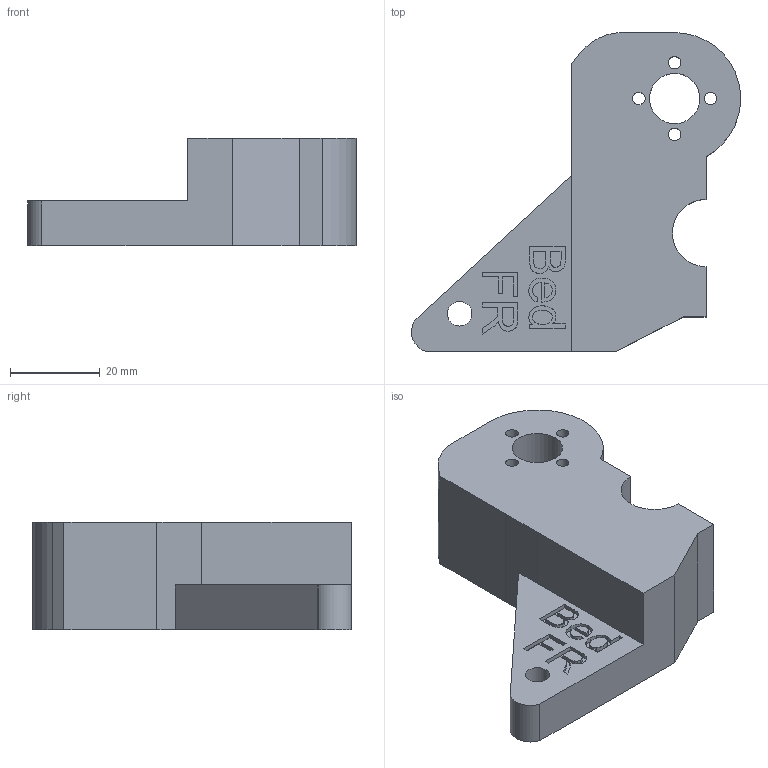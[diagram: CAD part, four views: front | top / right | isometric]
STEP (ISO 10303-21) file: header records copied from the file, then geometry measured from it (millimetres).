
FILE_DESCRIPTION(/* description */ (''),/* implementation_level */ '2;1');
FILE_NAME(/* name */ 'FR Z to Bed v3.step',/* time_stamp */ '2023-03-23T06:33:33-06:00',/* author */ (''),/* organization */ (''),/* preprocessor_version */ 'ST-DEVELOPER v19.2',/* originating_system */ 'Autodesk Translation Framework v11.17.0.187',/* authorisation */ '');
FILE_SCHEMA (('AUTOMOTIVE_DESIGN { 1 0 10303 214 3 1 1 }'));
Length unit declared in the file: millimetre
Products named in the file (2): FR Z to Bed; FR Z to Bed 1
Assembly tree (1 placements, depth 2):
  FR Z to Bed
    FR Z to Bed 1
Bounding box: 73.41 x 71.13 x 24 mm (x, y, z)
Volume: 53480.5 mm3; surface area: 13817.4 mm2
Topology: 1 solids, 1 shells, 170 faces, 462 edges, 308 vertices
Faces by surface type: plane 82, bspline 74, cylinder 14
Full cylindrical faces by diameter (mm): 2.8 x4, 3.5 x4, 5.5 x1, 11.25 x1
Entity records: 6106 total; most frequent: CARTESIAN_POINT 2201, ORIENTED_EDGE 924, DIRECTION 540, EDGE_CURVE 462, VERTEX_POINT 308, LINE 286, VECTOR 286, EDGE_LOOP 200
